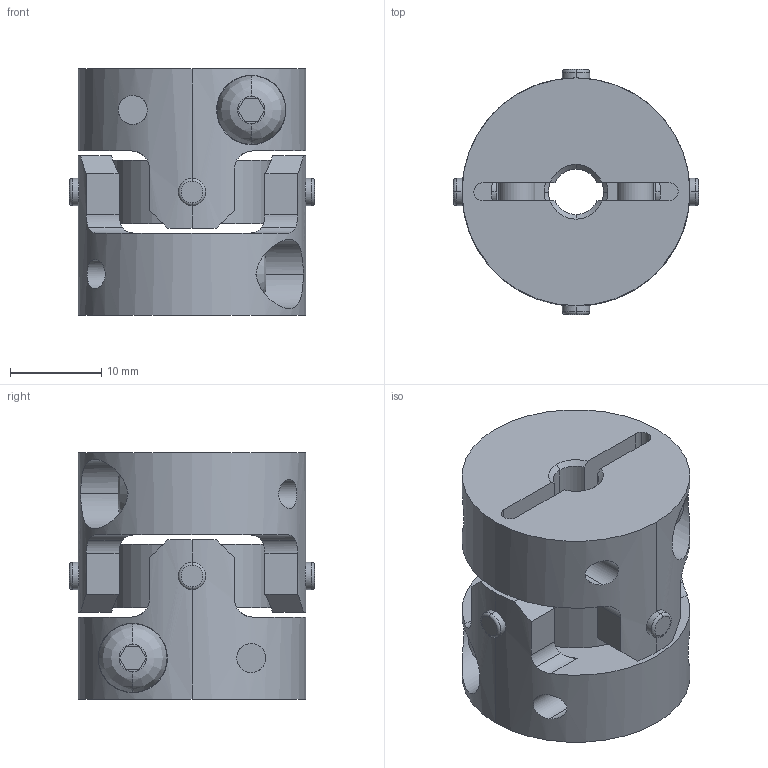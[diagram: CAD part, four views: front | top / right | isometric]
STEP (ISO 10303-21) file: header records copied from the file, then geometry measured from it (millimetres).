
FILE_DESCRIPTION((''),'2;1');
FILE_NAME('UA-25C-5×6.stp','2013-05-16T09:13:33',(''),(''),'AutoCAD STEP 2000i','AutoCAD 2000i',', , ');
FILE_SCHEMA(('CONFIG_CONTROL_DESIGN'));
Length unit declared in the file: millimetre
Products named in the file (6): UA-25C-5×5; 忣兜1; UA-2502-D05-1; BTN-M4; UA-2502-D05; UA25-SEN
Assembly tree (6 placements, depth 3):
  UA-25C-5×5
    忣兜1
    UA-2502-D05-1
      BTN-M4
    UA-2502-D05
      BTN-M4
    UA25-SEN
Bounding box: 26.89 x 26.89 x 27 mm (x, y, z)
Volume: 9429.1 mm3; surface area: 6502.7 mm2
Topology: 1 solids, 1 shells, 206 faces, 554 edges, 364 vertices
Faces by surface type: cylinder 96, plane 78, cone 16, bspline 8, torus 8
Entity records: 8291 total; most frequent: CARTESIAN_POINT 2975, ORIENTED_EDGE 1108, DIRECTION 1064, EDGE_CURVE 554, AXIS2_PLACEMENT_3D 409, VERTEX_POINT 364, VECTOR 246, LINE 246
